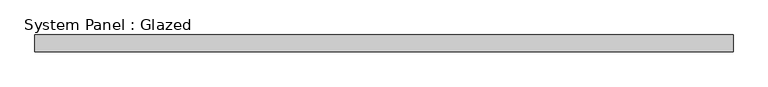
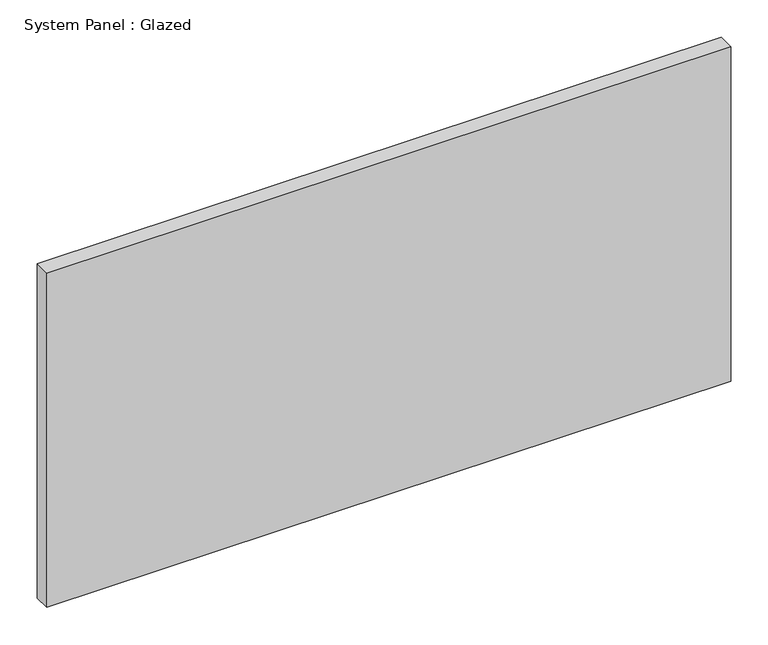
"""IFC4 building model written with IfcOpenShell, lengths in millimetres: plate geometry, System Panel : Glazed."""

from ifc_helpers import new_model, si_unit, origin, origin_with_axes, place, context, project, spatial, polyline, outline, extrude, source, transform, mapped, element, save


def system_panel_glazed_fd039e31(model_context):
    return source(origin(), model_context, "Body", "SweptSolid", [
        extrude(outline(polyline([(528.4107143, 19.05), (-528.4107143, 19.05), (-528.4107143, 44.45), (528.4107143, 44.45), (528.4107143, 19.05)])), origin_with_axes(), (0.0, 0.0, 1.0), 546.1),
    ])


if __name__ == "__main__":
    model = new_model("IFC4")
    model_context = context("Model", 3, world=origin())
    ifc_project = project(units=[si_unit("LENGTHUNIT", "METRE", prefix="MILLI")], contexts=[model_context])
    site = spatial("IfcSite", under=ifc_project)
    building = spatial("IfcBuilding", under=site)
    placement = place(None, origin())
    system_panel_glazed_shape = system_panel_glazed_fd039e31(model_context)
    element("IfcPlate", 1, ObjectType="System Panel : Glazed", at=placement, inside=building, context=model_context, shape_type="MappedRepresentation", body=[
        mapped(system_panel_glazed_shape, transform((0.0, 0.0, 0.0), x_axis=(1.0, 0.0, 0.0), y_axis=(0.0, 1.0, 0.0), z_axis=(0.0, 0.0, 1.0))),
    ])
    save(model, "model.ifc")
